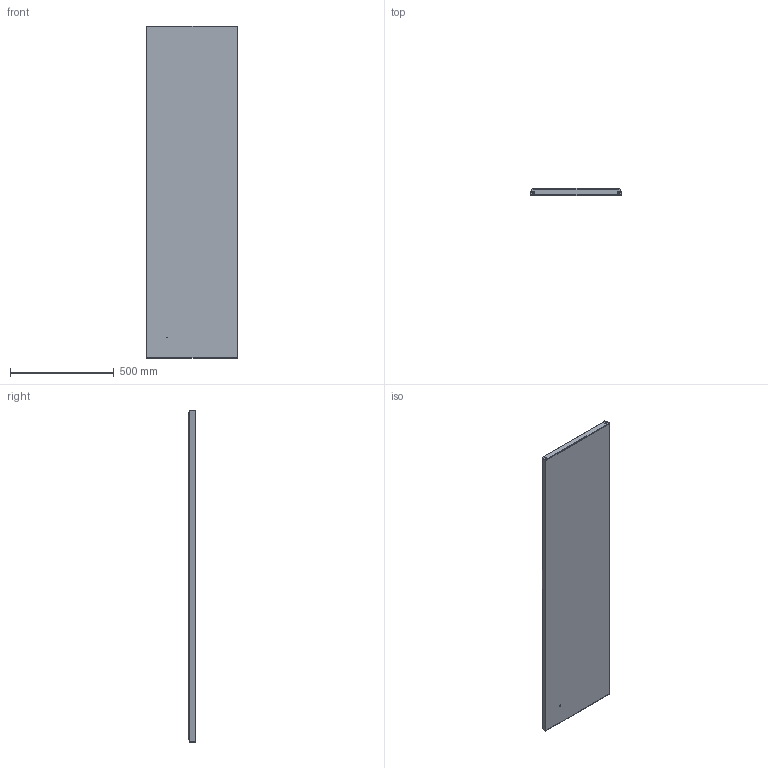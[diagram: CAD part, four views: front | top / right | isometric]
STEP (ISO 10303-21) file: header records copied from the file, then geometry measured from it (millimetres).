
FILE_DESCRIPTION (( 'STEP AP203' ), '1' );
FILE_NAME ('BDPS16_V0.STEP', '2018-04-02T07:19:12', ( '' ), ( '' ), 'SwSTEP 2.0', 'SolidWorks 2017', '' );
FILE_SCHEMA (( 'CONFIG_CONTROL_DESIGN' ));
Length unit declared in the file: millimetre
Products named in the file (13): 7-09017-05-3__ASM_1; USZCZELKA_BDP_16_1; NITONAKRETKA-M6-PRZELOT_5; BDPS16_V0; 7-09017-05-3_1; TRZPIEN_M8X15_5
Assembly tree (8 placements, depth 3):
  BDPS16_V0
    7-09017-05-3__ASM_1
      7-09017-05-3_1
      TRZPIEN_M8X15_5
    USZCZELKA_BDP_16_1
    NITONAKRETKA-M6-PRZELOT_5  x4
  7-09017-05-3_1
  TRZPIEN_M8X15_5
  NITONAKRETKA-M6-PRZELOT_5
  USZCZELKA_BDP_16_1
Bounding box: 440.8 x 35 x 1600 mm (x, y, z)
Volume: 1962337.2 mm3; surface area: 1909083.1 mm2
Topology: 7 solids, 7 shells, 202 faces, 470 edges, 294 vertices
Faces by surface type: plane 82, cylinder 78, bspline 24, cone 18
Entity records: 5770 total; most frequent: CARTESIAN_POINT 1148, DIRECTION 740, ORIENTED_EDGE 688, EDGE_CURVE 344, AXIS2_PLACEMENT_3D 268, VERTEX_POINT 216, VECTOR 204, LINE 204
